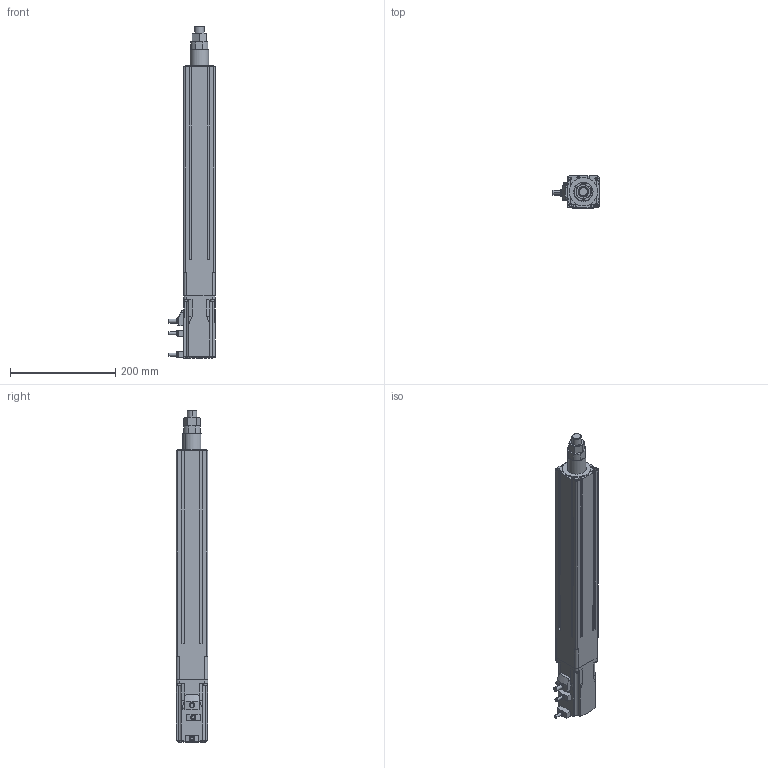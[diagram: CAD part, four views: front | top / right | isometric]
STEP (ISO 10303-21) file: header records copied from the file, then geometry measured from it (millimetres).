
FILE_DESCRIPTION (( 'STEP AP203' ), '1' );
FILE_NAME ('EACM6D30AZMK.step', '2015-07-08T12:46:38', ( 'om' ), ( 'Hewlett-Packard Company' ), 'SwSTEP 2.0', 'SolidWorks 2014', '' );
FILE_SCHEMA (( 'CONFIG_CONTROL_DESIGN' ));
Length unit declared in the file: millimetre
Products named in the file (5): EACM6D30AZMK; EACM6D30AZMK_Motor; EACM6D30AZMK_BASE; EACM6D30AZMK_Rod; EACM6D30AZMK_Nut
Assembly tree (4 placements, depth 2):
  EACM6D30AZMK
    EACM6D30AZMK_Motor
    EACM6D30AZMK_BASE
    EACM6D30AZMK_Rod
    EACM6D30AZMK_Nut
Bounding box: 88 x 60 x 631.7 mm (x, y, z)
Volume: 1889631.5 mm3; surface area: 289392.3 mm2
Topology: 4 solids, 5 shells, 412 faces, 1027 edges, 667 vertices
Faces by surface type: plane 248, cylinder 120, cone 36, sphere 4, torus 3, bspline 1
Entity records: 13147 total; most frequent: CARTESIAN_POINT 2643, DIRECTION 2099, ORIENTED_EDGE 2038, EDGE_CURVE 1019, AXIS2_PLACEMENT_3D 705, VECTOR 689, LINE 689, VERTEX_POINT 667
